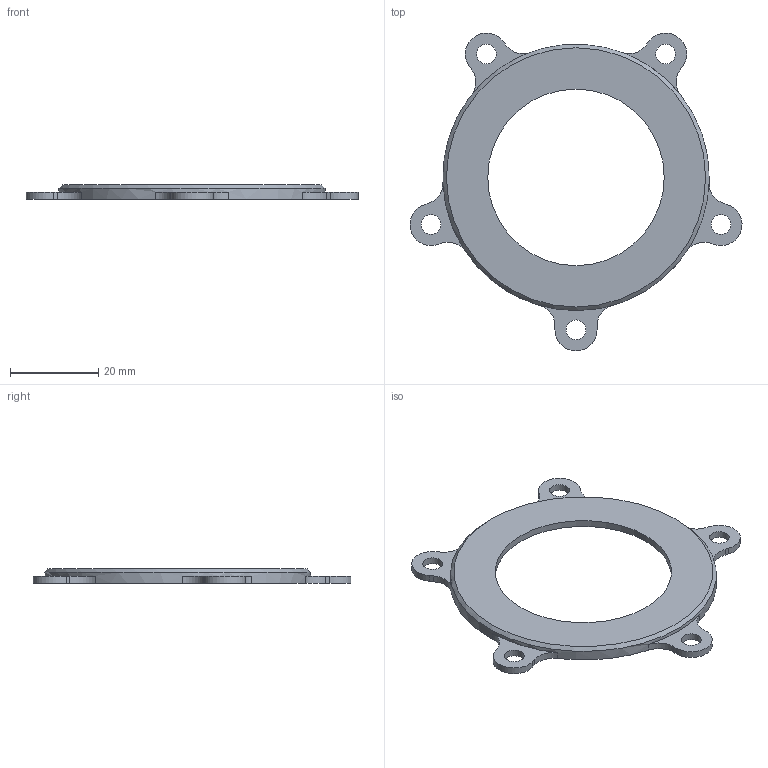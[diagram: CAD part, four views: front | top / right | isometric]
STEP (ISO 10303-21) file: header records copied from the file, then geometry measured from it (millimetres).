
FILE_DESCRIPTION(/* description */ ('STEP AP242 Edition 2','CAx-IF Rec.Pracs.---Representation and Presentation of Product Manufacturing Information (PMI)---4.0---2014-10-13','CAx-IF Rec.Pracs.---3D Tessellated Geometry---0.4---2014-09-14','2;1','CAx-IF Rec.Pracs.---User Defined Attributes---1.5---2016-08-15'),/* implementation_level */ '2;1');
FILE_NAME(/* name */ 'Main - Top',/* time_stamp */ '2026-07-24T17:05:38Z',/* author */ (''),/* organization */ (''),/* preprocessor_version */ 'ST-DEVELOPER v20',/* originating_system */ 'ONSHAPE BY PTC INC, 1.218',/* authorisation */ ' ');
FILE_SCHEMA (('AP242_MANAGED_MODEL_BASED_3D_ENGINEERING_MIM_LF { 1 0 10303 442 3 1 4 }'));
Length unit declared in the file: metre
Products named in the file (1): Top
Bounding box: 75.23 x 72.01 x 3.17 mm (x, y, z)
Volume: 3928.6 mm3; surface area: 5076.9 mm2
Topology: 1 solids, 1 shells, 42 faces, 116 edges, 77 vertices
Faces by surface type: cylinder 23, plane 18, cone 1
Full cylindrical faces by diameter (mm): 4.5 x5, 40.002 x1, 53.975 x1, 60.325 x1
Entity records: 1360 total; most frequent: DIRECTION 248, CARTESIAN_POINT 225, ORIENTED_EDGE 212, EDGE_CURVE 106, AXIS2_PLACEMENT_3D 99, VERTEX_POINT 76, EDGE_LOOP 64, FACE_BOUND 64
